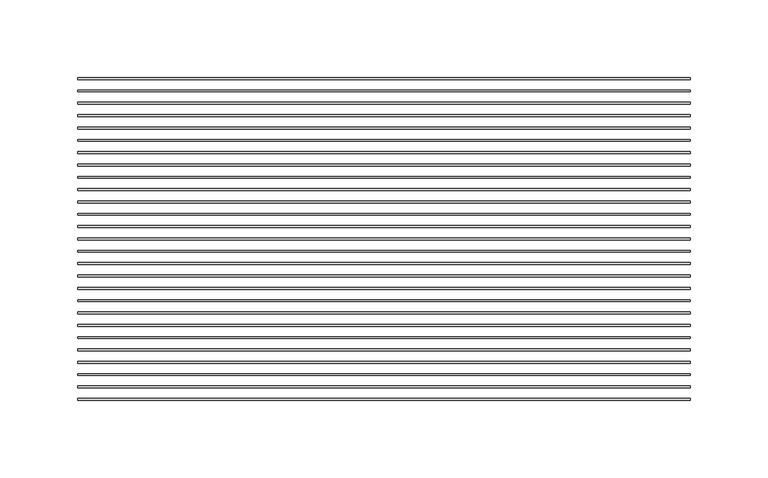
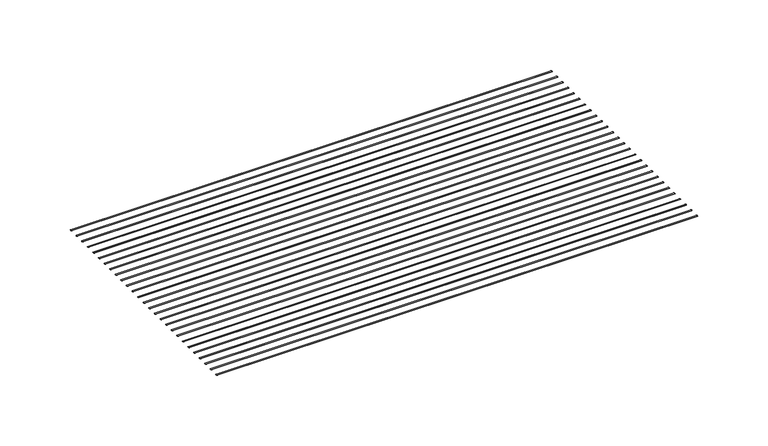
"""IFC4 building model written with IfcOpenShell, lengths in millimetres: proxy geometry, CRAi Generic Model Mesh Piece Face Based : CRAi Generic Model Mesh Piece Face Based."""

from ifc_helpers import new_model, si_unit, point, frame, origin, place, context, project, spatial, ellipse_curve, trimmed, source, transform, mapped, element, save
from ifc_brep_helpers import plane_surface, extruded_surface, advanced_brep


def generic_models_008a3d59(model_context):
    return source(origin(), model_context, "Body", "AdvancedBrep", [
        advanced_brep(
        [(-196.85, -134.6265202, -2.9765625), (-196.85, -133.4358952, -2.9765625), (196.85, -134.6265202, -2.9765625), (196.85, -133.4358952, -2.9765625)],
        [
            (0, 1, ellipse_curve(frame((-196.85, -134.0312077, -2.9765625), z_axis=(-1.0, 0.0, 0.0), x_axis=(0.0, 1.0, 0.0)), 0.5953125, 0.1984375)),
            (1, 0, ellipse_curve(frame((-196.85, -134.0312077, -2.9765625), z_axis=(-1.0, 0.0, 0.0), x_axis=(0.0, 1.0, 0.0)), 0.5953125, 0.1984375)),
            (2, 3, ellipse_curve(frame((196.85, -134.0312077, -2.9765625), z_axis=(1.0, 0.0, 0.0), x_axis=(0.0, 1.0, 0.0)), 0.5953125, 0.1984375)),
            (3, 2, ellipse_curve(frame((196.85, -134.0312077, -2.9765625), z_axis=(1.0, 0.0, 0.0), x_axis=(0.0, 1.0, 0.0)), 0.5953125, 0.1984375)),
            (1, 3),
            (2, 0),
        ],
        [
            plane_surface(frame((-196.85, -134.0312077, -2.9765625), z_axis=(-1.0, 0.0, 0.0), x_axis=(0.0, 0.0, 1.0))),
            plane_surface(frame((196.85, -134.0312077, -2.9765625), z_axis=(1.0, 0.0, 0.0), x_axis=(0.0, 0.0, 1.0))),
            extruded_surface(trimmed(ellipse_curve(frame((-196.85, -134.0312077, -2.9765625), z_axis=(1.0, 0.0, 0.0), x_axis=(0.0, 1.0, 0.0)), 0.5953125, 0.1984375), [point((-196.85, -134.6265202, -2.9765625))], [point((-196.85, -133.4358952, -2.9765625))], True, "CARTESIAN"), (393.7, 0.0, 0.0), 393.7),
            extruded_surface(trimmed(ellipse_curve(frame((-196.85, -134.0312077, -2.9765625), z_axis=(1.0, 0.0, 0.0), x_axis=(0.0, 1.0, 0.0)), 0.5953125, 0.1984375), [point((-196.85, -133.4358952, -2.9765625))], [point((-196.85, -134.6265202, -2.9765625))], True, "CARTESIAN"), (393.7, 0.0, 0.0), 393.7),
        ],
        [
            (0, [[1, 2]]),
            (1, [[3, 4]]),
            (2, [[5, -3, 6, -2]]),
            (3, [[-6, -4, -5, -1]]),
        ],
    ),
        advanced_brep(
        [(-196.85, -126.6890202, -2.9765625), (-196.85, -125.4983952, -2.9765625), (196.85, -126.6890202, -2.9765625), (196.85, -125.4983952, -2.9765625)],
        [
            (0, 1, ellipse_curve(frame((-196.85, -126.0937077, -2.9765625), z_axis=(-1.0, 0.0, 0.0), x_axis=(0.0, 1.0, 0.0)), 0.5953125, 0.1984375)),
            (1, 0, ellipse_curve(frame((-196.85, -126.0937077, -2.9765625), z_axis=(-1.0, 0.0, 0.0), x_axis=(0.0, 1.0, 0.0)), 0.5953125, 0.1984375)),
            (2, 3, ellipse_curve(frame((196.85, -126.0937077, -2.9765625), z_axis=(1.0, 0.0, 0.0), x_axis=(0.0, 1.0, 0.0)), 0.5953125, 0.1984375)),
            (3, 2, ellipse_curve(frame((196.85, -126.0937077, -2.9765625), z_axis=(1.0, 0.0, 0.0), x_axis=(0.0, 1.0, 0.0)), 0.5953125, 0.1984375)),
            (1, 3),
            (2, 0),
        ],
        [
            plane_surface(frame((-196.85, -126.0937077, -2.9765625), z_axis=(-1.0, 0.0, 0.0), x_axis=(0.0, 0.0, 1.0))),
            plane_surface(frame((196.85, -126.0937077, -2.9765625), z_axis=(1.0, 0.0, 0.0), x_axis=(0.0, 0.0, 1.0))),
            extruded_surface(trimmed(ellipse_curve(frame((-196.85, -126.0937077, -2.9765625), z_axis=(1.0, 0.0, 0.0), x_axis=(0.0, 1.0, 0.0)), 0.5953125, 0.1984375), [point((-196.85, -126.6890202, -2.9765625))], [point((-196.85, -125.4983952, -2.9765625))], True, "CARTESIAN"), (393.7, 0.0, 0.0), 393.7),
            extruded_surface(trimmed(ellipse_curve(frame((-196.85, -126.0937077, -2.9765625), z_axis=(1.0, 0.0, 0.0), x_axis=(0.0, 1.0, 0.0)), 0.5953125, 0.1984375), [point((-196.85, -125.4983952, -2.9765625))], [point((-196.85, -126.6890202, -2.9765625))], True, "CARTESIAN"), (393.7, 0.0, 0.0), 393.7),
        ],
        [
            (0, [[1, 2]]),
            (1, [[3, 4]]),
            (2, [[5, -3, 6, -2]]),
            (3, [[-6, -4, -5, -1]]),
        ],
    ),
        advanced_brep(
        [(-196.85, -118.7515202, -2.9765625), (-196.85, -117.5608952, -2.9765625), (196.85, -118.7515202, -2.9765625), (196.85, -117.5608952, -2.9765625)],
        [
            (0, 1, ellipse_curve(frame((-196.85, -118.1562077, -2.9765625), z_axis=(-1.0, 0.0, 0.0), x_axis=(0.0, 1.0, 0.0)), 0.5953125, 0.1984375)),
            (1, 0, ellipse_curve(frame((-196.85, -118.1562077, -2.9765625), z_axis=(-1.0, 0.0, 0.0), x_axis=(0.0, 1.0, 0.0)), 0.5953125, 0.1984375)),
            (2, 3, ellipse_curve(frame((196.85, -118.1562077, -2.9765625), z_axis=(1.0, 0.0, 0.0), x_axis=(0.0, 1.0, 0.0)), 0.5953125, 0.1984375)),
            (3, 2, ellipse_curve(frame((196.85, -118.1562077, -2.9765625), z_axis=(1.0, 0.0, 0.0), x_axis=(0.0, 1.0, 0.0)), 0.5953125, 0.1984375)),
            (1, 3),
            (2, 0),
        ],
        [
            plane_surface(frame((-196.85, -118.1562077, -2.9765625), z_axis=(-1.0, 0.0, 0.0), x_axis=(0.0, 0.0, 1.0))),
            plane_surface(frame((196.85, -118.1562077, -2.9765625), z_axis=(1.0, 0.0, 0.0), x_axis=(0.0, 0.0, 1.0))),
            extruded_surface(trimmed(ellipse_curve(frame((-196.85, -118.1562077, -2.9765625), z_axis=(1.0, 0.0, 0.0), x_axis=(0.0, 1.0, 0.0)), 0.5953125, 0.1984375), [point((-196.85, -118.7515202, -2.9765625))], [point((-196.85, -117.5608952, -2.9765625))], True, "CARTESIAN"), (393.7, 0.0, 0.0), 393.7),
            extruded_surface(trimmed(ellipse_curve(frame((-196.85, -118.1562077, -2.9765625), z_axis=(1.0, 0.0, 0.0), x_axis=(0.0, 1.0, 0.0)), 0.5953125, 0.1984375), [point((-196.85, -117.5608952, -2.9765625))], [point((-196.85, -118.7515202, -2.9765625))], True, "CARTESIAN"), (393.7, 0.0, 0.0), 393.7),
        ],
        [
            (0, [[1, 2]]),
            (1, [[3, 4]]),
            (2, [[5, -3, 6, -2]]),
            (3, [[-6, -4, -5, -1]]),
        ],
    ),
        advanced_brep(
        [(-196.85, -110.8140202, -2.9765625), (-196.85, -109.6233952, -2.9765625), (196.85, -110.8140202, -2.9765625), (196.85, -109.6233952, -2.9765625)],
        [
            (0, 1, ellipse_curve(frame((-196.85, -110.2187077, -2.9765625), z_axis=(-1.0, 0.0, 0.0), x_axis=(0.0, 1.0, 0.0)), 0.5953125, 0.1984375)),
            (1, 0, ellipse_curve(frame((-196.85, -110.2187077, -2.9765625), z_axis=(-1.0, 0.0, 0.0), x_axis=(0.0, 1.0, 0.0)), 0.5953125, 0.1984375)),
            (2, 3, ellipse_curve(frame((196.85, -110.2187077, -2.9765625), z_axis=(1.0, 0.0, 0.0), x_axis=(0.0, 1.0, 0.0)), 0.5953125, 0.1984375)),
            (3, 2, ellipse_curve(frame((196.85, -110.2187077, -2.9765625), z_axis=(1.0, 0.0, 0.0), x_axis=(0.0, 1.0, 0.0)), 0.5953125, 0.1984375)),
            (1, 3),
            (2, 0),
        ],
        [
            plane_surface(frame((-196.85, -110.2187077, -2.9765625), z_axis=(-1.0, 0.0, 0.0), x_axis=(0.0, 0.0, 1.0))),
            plane_surface(frame((196.85, -110.2187077, -2.9765625), z_axis=(1.0, 0.0, 0.0), x_axis=(0.0, 0.0, 1.0))),
            extruded_surface(trimmed(ellipse_curve(frame((-196.85, -110.2187077, -2.9765625), z_axis=(1.0, 0.0, 0.0), x_axis=(0.0, 1.0, 0.0)), 0.5953125, 0.1984375), [point((-196.85, -110.8140202, -2.9765625))], [point((-196.85, -109.6233952, -2.9765625))], True, "CARTESIAN"), (393.7, 0.0, 0.0), 393.7),
            extruded_surface(trimmed(ellipse_curve(frame((-196.85, -110.2187077, -2.9765625), z_axis=(1.0, 0.0, 0.0), x_axis=(0.0, 1.0, 0.0)), 0.5953125, 0.1984375), [point((-196.85, -109.6233952, -2.9765625))], [point((-196.85, -110.8140202, -2.9765625))], True, "CARTESIAN"), (393.7, 0.0, 0.0), 393.7),
        ],
        [
            (0, [[1, 2]]),
            (1, [[3, 4]]),
            (2, [[5, -3, 6, -2]]),
            (3, [[-6, -4, -5, -1]]),
        ],
    ),
        advanced_brep(
        [(-196.85, -102.8765202, -2.9765625), (-196.85, -101.6858952, -2.9765625), (196.85, -102.8765202, -2.9765625), (196.85, -101.6858952, -2.9765625)],
        [
            (0, 1, ellipse_curve(frame((-196.85, -102.2812077, -2.9765625), z_axis=(-1.0, 0.0, 0.0), x_axis=(0.0, 1.0, 0.0)), 0.5953125, 0.1984375)),
            (1, 0, ellipse_curve(frame((-196.85, -102.2812077, -2.9765625), z_axis=(-1.0, 0.0, 0.0), x_axis=(0.0, 1.0, 0.0)), 0.5953125, 0.1984375)),
            (2, 3, ellipse_curve(frame((196.85, -102.2812077, -2.9765625), z_axis=(1.0, 0.0, 0.0), x_axis=(0.0, 1.0, 0.0)), 0.5953125, 0.1984375)),
            (3, 2, ellipse_curve(frame((196.85, -102.2812077, -2.9765625), z_axis=(1.0, 0.0, 0.0), x_axis=(0.0, 1.0, 0.0)), 0.5953125, 0.1984375)),
            (1, 3),
            (2, 0),
        ],
        [
            plane_surface(frame((-196.85, -102.2812077, -2.9765625), z_axis=(-1.0, 0.0, 0.0), x_axis=(0.0, 0.0, 1.0))),
            plane_surface(frame((196.85, -102.2812077, -2.9765625), z_axis=(1.0, 0.0, 0.0), x_axis=(0.0, 0.0, 1.0))),
            extruded_surface(trimmed(ellipse_curve(frame((-196.85, -102.2812077, -2.9765625), z_axis=(1.0, 0.0, 0.0), x_axis=(0.0, 1.0, 0.0)), 0.5953125, 0.1984375), [point((-196.85, -102.8765202, -2.9765625))], [point((-196.85, -101.6858952, -2.9765625))], True, "CARTESIAN"), (393.7, 0.0, 0.0), 393.7),
            extruded_surface(trimmed(ellipse_curve(frame((-196.85, -102.2812077, -2.9765625), z_axis=(1.0, 0.0, 0.0), x_axis=(0.0, 1.0, 0.0)), 0.5953125, 0.1984375), [point((-196.85, -101.6858952, -2.9765625))], [point((-196.85, -102.8765202, -2.9765625))], True, "CARTESIAN"), (393.7, 0.0, 0.0), 393.7),
        ],
        [
            (0, [[1, 2]]),
            (1, [[3, 4]]),
            (2, [[5, -3, 6, -2]]),
            (3, [[-6, -4, -5, -1]]),
        ],
    ),
        advanced_brep(
        [(-196.85, -94.9390202, -2.9765625), (-196.85, -93.7483952, -2.9765625), (196.85, -94.9390202, -2.9765625), (196.85, -93.7483952, -2.9765625)],
        [
            (0, 1, ellipse_curve(frame((-196.85, -94.3437077, -2.9765625), z_axis=(-1.0, 0.0, 0.0), x_axis=(0.0, 1.0, 0.0)), 0.5953125, 0.1984375)),
            (1, 0, ellipse_curve(frame((-196.85, -94.3437077, -2.9765625), z_axis=(-1.0, 0.0, 0.0), x_axis=(0.0, 1.0, 0.0)), 0.5953125, 0.1984375)),
            (2, 3, ellipse_curve(frame((196.85, -94.3437077, -2.9765625), z_axis=(1.0, 0.0, 0.0), x_axis=(0.0, 1.0, 0.0)), 0.5953125, 0.1984375)),
            (3, 2, ellipse_curve(frame((196.85, -94.3437077, -2.9765625), z_axis=(1.0, 0.0, 0.0), x_axis=(0.0, 1.0, 0.0)), 0.5953125, 0.1984375)),
            (1, 3),
            (2, 0),
        ],
        [
            plane_surface(frame((-196.85, -94.3437077, -2.9765625), z_axis=(-1.0, 0.0, 0.0), x_axis=(0.0, 0.0, 1.0))),
            plane_surface(frame((196.85, -94.3437077, -2.9765625), z_axis=(1.0, 0.0, 0.0), x_axis=(0.0, 0.0, 1.0))),
            extruded_surface(trimmed(ellipse_curve(frame((-196.85, -94.3437077, -2.9765625), z_axis=(1.0, 0.0, 0.0), x_axis=(0.0, 1.0, 0.0)), 0.5953125, 0.1984375), [point((-196.85, -94.9390202, -2.9765625))], [point((-196.85, -93.7483952, -2.9765625))], True, "CARTESIAN"), (393.7, 0.0, 0.0), 393.7),
            extruded_surface(trimmed(ellipse_curve(frame((-196.85, -94.3437077, -2.9765625), z_axis=(1.0, 0.0, 0.0), x_axis=(0.0, 1.0, 0.0)), 0.5953125, 0.1984375), [point((-196.85, -93.7483952, -2.9765625))], [point((-196.85, -94.9390202, -2.9765625))], True, "CARTESIAN"), (393.7, 0.0, 0.0), 393.7),
        ],
        [
            (0, [[1, 2]]),
            (1, [[3, 4]]),
            (2, [[5, -3, 6, -2]]),
            (3, [[-6, -4, -5, -1]]),
        ],
    ),
        advanced_brep(
        [(-196.85, -87.0015202, -2.9765625), (-196.85, -85.8108952, -2.9765625), (196.85, -87.0015202, -2.9765625), (196.85, -85.8108952, -2.9765625)],
        [
            (0, 1, ellipse_curve(frame((-196.85, -86.4062077, -2.9765625), z_axis=(-1.0, 0.0, 0.0), x_axis=(0.0, 1.0, 0.0)), 0.5953125, 0.1984375)),
            (1, 0, ellipse_curve(frame((-196.85, -86.4062077, -2.9765625), z_axis=(-1.0, 0.0, 0.0), x_axis=(0.0, 1.0, 0.0)), 0.5953125, 0.1984375)),
            (2, 3, ellipse_curve(frame((196.85, -86.4062077, -2.9765625), z_axis=(1.0, 0.0, 0.0), x_axis=(0.0, 1.0, 0.0)), 0.5953125, 0.1984375)),
            (3, 2, ellipse_curve(frame((196.85, -86.4062077, -2.9765625), z_axis=(1.0, 0.0, 0.0), x_axis=(0.0, 1.0, 0.0)), 0.5953125, 0.1984375)),
            (1, 3),
            (2, 0),
        ],
        [
            plane_surface(frame((-196.85, -86.4062077, -2.9765625), z_axis=(-1.0, 0.0, 0.0), x_axis=(0.0, 0.0, 1.0))),
            plane_surface(frame((196.85, -86.4062077, -2.9765625), z_axis=(1.0, 0.0, 0.0), x_axis=(0.0, 0.0, 1.0))),
            extruded_surface(trimmed(ellipse_curve(frame((-196.85, -86.4062077, -2.9765625), z_axis=(1.0, 0.0, 0.0), x_axis=(0.0, 1.0, 0.0)), 0.5953125, 0.1984375), [point((-196.85, -87.0015202, -2.9765625))], [point((-196.85, -85.8108952, -2.9765625))], True, "CARTESIAN"), (393.7, 0.0, 0.0), 393.7),
            extruded_surface(trimmed(ellipse_curve(frame((-196.85, -86.4062077, -2.9765625), z_axis=(1.0, 0.0, 0.0), x_axis=(0.0, 1.0, 0.0)), 0.5953125, 0.1984375), [point((-196.85, -85.8108952, -2.9765625))], [point((-196.85, -87.0015202, -2.9765625))], True, "CARTESIAN"), (393.7, 0.0, 0.0), 393.7),
        ],
        [
            (0, [[1, 2]]),
            (1, [[3, 4]]),
            (2, [[5, -3, 6, -2]]),
            (3, [[-6, -4, -5, -1]]),
        ],
    ),
        advanced_brep(
        [(-196.85, -79.0640202, -2.9765625), (-196.85, -77.8733952, -2.9765625), (196.85, -79.0640202, -2.9765625), (196.85, -77.8733952, -2.9765625)],
        [
            (0, 1, ellipse_curve(frame((-196.85, -78.4687077, -2.9765625), z_axis=(-1.0, 0.0, 0.0), x_axis=(0.0, 1.0, 0.0)), 0.5953125, 0.1984375)),
            (1, 0, ellipse_curve(frame((-196.85, -78.4687077, -2.9765625), z_axis=(-1.0, 0.0, 0.0), x_axis=(0.0, 1.0, 0.0)), 0.5953125, 0.1984375)),
            (2, 3, ellipse_curve(frame((196.85, -78.4687077, -2.9765625), z_axis=(1.0, 0.0, 0.0), x_axis=(0.0, 1.0, 0.0)), 0.5953125, 0.1984375)),
            (3, 2, ellipse_curve(frame((196.85, -78.4687077, -2.9765625), z_axis=(1.0, 0.0, 0.0), x_axis=(0.0, 1.0, 0.0)), 0.5953125, 0.1984375)),
            (1, 3),
            (2, 0),
        ],
        [
            plane_surface(frame((-196.85, -78.4687077, -2.9765625), z_axis=(-1.0, 0.0, 0.0), x_axis=(0.0, 0.0, 1.0))),
            plane_surface(frame((196.85, -78.4687077, -2.9765625), z_axis=(1.0, 0.0, 0.0), x_axis=(0.0, 0.0, 1.0))),
            extruded_surface(trimmed(ellipse_curve(frame((-196.85, -78.4687077, -2.9765625), z_axis=(1.0, 0.0, 0.0), x_axis=(0.0, 1.0, 0.0)), 0.5953125, 0.1984375), [point((-196.85, -79.0640202, -2.9765625))], [point((-196.85, -77.8733952, -2.9765625))], True, "CARTESIAN"), (393.7, 0.0, 0.0), 393.7),
            extruded_surface(trimmed(ellipse_curve(frame((-196.85, -78.4687077, -2.9765625), z_axis=(1.0, 0.0, 0.0), x_axis=(0.0, 1.0, 0.0)), 0.5953125, 0.1984375), [point((-196.85, -77.8733952, -2.9765625))], [point((-196.85, -79.0640202, -2.9765625))], True, "CARTESIAN"), (393.7, 0.0, 0.0), 393.7),
        ],
        [
            (0, [[1, 2]]),
            (1, [[3, 4]]),
            (2, [[5, -3, 6, -2]]),
            (3, [[-6, -4, -5, -1]]),
        ],
    ),
        advanced_brep(
        [(-196.85, -71.1265202, -2.9765625), (-196.85, -69.9358952, -2.9765625), (196.85, -71.1265202, -2.9765625), (196.85, -69.9358952, -2.9765625)],
        [
            (0, 1, ellipse_curve(frame((-196.85, -70.5312077, -2.9765625), z_axis=(-1.0, 0.0, 0.0), x_axis=(0.0, 1.0, 0.0)), 0.5953125, 0.1984375)),
            (1, 0, ellipse_curve(frame((-196.85, -70.5312077, -2.9765625), z_axis=(-1.0, 0.0, 0.0), x_axis=(0.0, 1.0, 0.0)), 0.5953125, 0.1984375)),
            (2, 3, ellipse_curve(frame((196.85, -70.5312077, -2.9765625), z_axis=(1.0, 0.0, 0.0), x_axis=(0.0, 1.0, 0.0)), 0.5953125, 0.1984375)),
            (3, 2, ellipse_curve(frame((196.85, -70.5312077, -2.9765625), z_axis=(1.0, 0.0, 0.0), x_axis=(0.0, 1.0, 0.0)), 0.5953125, 0.1984375)),
            (1, 3),
            (2, 0),
        ],
        [
            plane_surface(frame((-196.85, -70.5312077, -2.9765625), z_axis=(-1.0, 0.0, 0.0), x_axis=(0.0, 0.0, 1.0))),
            plane_surface(frame((196.85, -70.5312077, -2.9765625), z_axis=(1.0, 0.0, 0.0), x_axis=(0.0, 0.0, 1.0))),
            extruded_surface(trimmed(ellipse_curve(frame((-196.85, -70.5312077, -2.9765625), z_axis=(1.0, 0.0, 0.0), x_axis=(0.0, 1.0, 0.0)), 0.5953125, 0.1984375), [point((-196.85, -71.1265202, -2.9765625))], [point((-196.85, -69.9358952, -2.9765625))], True, "CARTESIAN"), (393.7, 0.0, 0.0), 393.7),
            extruded_surface(trimmed(ellipse_curve(frame((-196.85, -70.5312077, -2.9765625), z_axis=(1.0, 0.0, 0.0), x_axis=(0.0, 1.0, 0.0)), 0.5953125, 0.1984375), [point((-196.85, -69.9358952, -2.9765625))], [point((-196.85, -71.1265202, -2.9765625))], True, "CARTESIAN"), (393.7, 0.0, 0.0), 393.7),
        ],
        [
            (0, [[1, 2]]),
            (1, [[3, 4]]),
            (2, [[5, -3, 6, -2]]),
            (3, [[-6, -4, -5, -1]]),
        ],
    ),
        advanced_brep(
        [(-196.85, -63.1890202, -2.9765625), (-196.85, -61.9983952, -2.9765625), (196.85, -63.1890202, -2.9765625), (196.85, -61.9983952, -2.9765625)],
        [
            (0, 1, ellipse_curve(frame((-196.85, -62.5937077, -2.9765625), z_axis=(-1.0, 0.0, 0.0), x_axis=(0.0, 1.0, 0.0)), 0.5953125, 0.1984375)),
            (1, 0, ellipse_curve(frame((-196.85, -62.5937077, -2.9765625), z_axis=(-1.0, 0.0, 0.0), x_axis=(0.0, 1.0, 0.0)), 0.5953125, 0.1984375)),
            (2, 3, ellipse_curve(frame((196.85, -62.5937077, -2.9765625), z_axis=(1.0, 0.0, 0.0), x_axis=(0.0, 1.0, 0.0)), 0.5953125, 0.1984375)),
            (3, 2, ellipse_curve(frame((196.85, -62.5937077, -2.9765625), z_axis=(1.0, 0.0, 0.0), x_axis=(0.0, 1.0, 0.0)), 0.5953125, 0.1984375)),
            (1, 3),
            (2, 0),
        ],
        [
            plane_surface(frame((-196.85, -62.5937077, -2.9765625), z_axis=(-1.0, 0.0, 0.0), x_axis=(0.0, 0.0, 1.0))),
            plane_surface(frame((196.85, -62.5937077, -2.9765625), z_axis=(1.0, 0.0, 0.0), x_axis=(0.0, 0.0, 1.0))),
            extruded_surface(trimmed(ellipse_curve(frame((-196.85, -62.5937077, -2.9765625), z_axis=(1.0, 0.0, 0.0), x_axis=(0.0, 1.0, 0.0)), 0.5953125, 0.1984375), [point((-196.85, -63.1890202, -2.9765625))], [point((-196.85, -61.9983952, -2.9765625))], True, "CARTESIAN"), (393.7, 0.0, 0.0), 393.7),
            extruded_surface(trimmed(ellipse_curve(frame((-196.85, -62.5937077, -2.9765625), z_axis=(1.0, 0.0, 0.0), x_axis=(0.0, 1.0, 0.0)), 0.5953125, 0.1984375), [point((-196.85, -61.9983952, -2.9765625))], [point((-196.85, -63.1890202, -2.9765625))], True, "CARTESIAN"), (393.7, 0.0, 0.0), 393.7),
        ],
        [
            (0, [[1, 2]]),
            (1, [[3, 4]]),
            (2, [[5, -3, 6, -2]]),
            (3, [[-6, -4, -5, -1]]),
        ],
    ),
        advanced_brep(
        [(-196.85, -55.2515202, -2.9765625), (-196.85, -54.0608952, -2.9765625), (196.85, -55.2515202, -2.9765625), (196.85, -54.0608952, -2.9765625)],
        [
            (0, 1, ellipse_curve(frame((-196.85, -54.6562077, -2.9765625), z_axis=(-1.0, 0.0, 0.0), x_axis=(0.0, 1.0, 0.0)), 0.5953125, 0.1984375)),
            (1, 0, ellipse_curve(frame((-196.85, -54.6562077, -2.9765625), z_axis=(-1.0, 0.0, 0.0), x_axis=(0.0, 1.0, 0.0)), 0.5953125, 0.1984375)),
            (2, 3, ellipse_curve(frame((196.85, -54.6562077, -2.9765625), z_axis=(1.0, 0.0, 0.0), x_axis=(0.0, 1.0, 0.0)), 0.5953125, 0.1984375)),
            (3, 2, ellipse_curve(frame((196.85, -54.6562077, -2.9765625), z_axis=(1.0, 0.0, 0.0), x_axis=(0.0, 1.0, 0.0)), 0.5953125, 0.1984375)),
            (1, 3),
            (2, 0),
        ],
        [
            plane_surface(frame((-196.85, -54.6562077, -2.9765625), z_axis=(-1.0, 0.0, 0.0), x_axis=(0.0, 0.0, 1.0))),
            plane_surface(frame((196.85, -54.6562077, -2.9765625), z_axis=(1.0, 0.0, 0.0), x_axis=(0.0, 0.0, 1.0))),
            extruded_surface(trimmed(ellipse_curve(frame((-196.85, -54.6562077, -2.9765625), z_axis=(1.0, 0.0, 0.0), x_axis=(0.0, 1.0, 0.0)), 0.5953125, 0.1984375), [point((-196.85, -55.2515202, -2.9765625))], [point((-196.85, -54.0608952, -2.9765625))], True, "CARTESIAN"), (393.7, 0.0, 0.0), 393.7),
            extruded_surface(trimmed(ellipse_curve(frame((-196.85, -54.6562077, -2.9765625), z_axis=(1.0, 0.0, 0.0), x_axis=(0.0, 1.0, 0.0)), 0.5953125, 0.1984375), [point((-196.85, -54.0608952, -2.9765625))], [point((-196.85, -55.2515202, -2.9765625))], True, "CARTESIAN"), (393.7, 0.0, 0.0), 393.7),
        ],
        [
            (0, [[1, 2]]),
            (1, [[3, 4]]),
            (2, [[5, -3, 6, -2]]),
            (3, [[-6, -4, -5, -1]]),
        ],
    ),
        advanced_brep(
        [(-196.85, -47.3140202, -2.9765625), (-196.85, -46.1233952, -2.9765625), (196.85, -47.3140202, -2.9765625), (196.85, -46.1233952, -2.9765625)],
        [
            (0, 1, ellipse_curve(frame((-196.85, -46.7187077, -2.9765625), z_axis=(-1.0, 0.0, 0.0), x_axis=(0.0, 1.0, 0.0)), 0.5953125, 0.1984375)),
            (1, 0, ellipse_curve(frame((-196.85, -46.7187077, -2.9765625), z_axis=(-1.0, 0.0, 0.0), x_axis=(0.0, 1.0, 0.0)), 0.5953125, 0.1984375)),
            (2, 3, ellipse_curve(frame((196.85, -46.7187077, -2.9765625), z_axis=(1.0, 0.0, 0.0), x_axis=(0.0, 1.0, 0.0)), 0.5953125, 0.1984375)),
            (3, 2, ellipse_curve(frame((196.85, -46.7187077, -2.9765625), z_axis=(1.0, 0.0, 0.0), x_axis=(0.0, 1.0, 0.0)), 0.5953125, 0.1984375)),
            (1, 3),
            (2, 0),
        ],
        [
            plane_surface(frame((-196.85, -46.7187077, -2.9765625), z_axis=(-1.0, 0.0, 0.0), x_axis=(0.0, 0.0, 1.0))),
            plane_surface(frame((196.85, -46.7187077, -2.9765625), z_axis=(1.0, 0.0, 0.0), x_axis=(0.0, 0.0, 1.0))),
            extruded_surface(trimmed(ellipse_curve(frame((-196.85, -46.7187077, -2.9765625), z_axis=(1.0, 0.0, 0.0), x_axis=(0.0, 1.0, 0.0)), 0.5953125, 0.1984375), [point((-196.85, -47.3140202, -2.9765625))], [point((-196.85, -46.1233952, -2.9765625))], True, "CARTESIAN"), (393.7, 0.0, 0.0), 393.7),
            extruded_surface(trimmed(ellipse_curve(frame((-196.85, -46.7187077, -2.9765625), z_axis=(1.0, 0.0, 0.0), x_axis=(0.0, 1.0, 0.0)), 0.5953125, 0.1984375), [point((-196.85, -46.1233952, -2.9765625))], [point((-196.85, -47.3140202, -2.9765625))], True, "CARTESIAN"), (393.7, 0.0, 0.0), 393.7),
        ],
        [
            (0, [[1, 2]]),
            (1, [[3, 4]]),
            (2, [[5, -3, 6, -2]]),
            (3, [[-6, -4, -5, -1]]),
        ],
    ),
        advanced_brep(
        [(-196.85, -39.3765202, -2.9765625), (-196.85, -38.1858952, -2.9765625), (196.85, -39.3765202, -2.9765625), (196.85, -38.1858952, -2.9765625)],
        [
            (0, 1, ellipse_curve(frame((-196.85, -38.7812077, -2.9765625), z_axis=(-1.0, 0.0, 0.0), x_axis=(0.0, 1.0, 0.0)), 0.5953125, 0.1984375)),
            (1, 0, ellipse_curve(frame((-196.85, -38.7812077, -2.9765625), z_axis=(-1.0, 0.0, 0.0), x_axis=(0.0, 1.0, 0.0)), 0.5953125, 0.1984375)),
            (2, 3, ellipse_curve(frame((196.85, -38.7812077, -2.9765625), z_axis=(1.0, 0.0, 0.0), x_axis=(0.0, 1.0, 0.0)), 0.5953125, 0.1984375)),
            (3, 2, ellipse_curve(frame((196.85, -38.7812077, -2.9765625), z_axis=(1.0, 0.0, 0.0), x_axis=(0.0, 1.0, 0.0)), 0.5953125, 0.1984375)),
            (1, 3),
            (2, 0),
        ],
        [
            plane_surface(frame((-196.85, -38.7812077, -2.9765625), z_axis=(-1.0, 0.0, 0.0), x_axis=(0.0, 0.0, 1.0))),
            plane_surface(frame((196.85, -38.7812077, -2.9765625), z_axis=(1.0, 0.0, 0.0), x_axis=(0.0, 0.0, 1.0))),
            extruded_surface(trimmed(ellipse_curve(frame((-196.85, -38.7812077, -2.9765625), z_axis=(1.0, 0.0, 0.0), x_axis=(0.0, 1.0, 0.0)), 0.5953125, 0.1984375), [point((-196.85, -39.3765202, -2.9765625))], [point((-196.85, -38.1858952, -2.9765625))], True, "CARTESIAN"), (393.7, 0.0, 0.0), 393.7),
            extruded_surface(trimmed(ellipse_curve(frame((-196.85, -38.7812077, -2.9765625), z_axis=(1.0, 0.0, 0.0), x_axis=(0.0, 1.0, 0.0)), 0.5953125, 0.1984375), [point((-196.85, -38.1858952, -2.9765625))], [point((-196.85, -39.3765202, -2.9765625))], True, "CARTESIAN"), (393.7, 0.0, 0.0), 393.7),
        ],
        [
            (0, [[1, 2]]),
            (1, [[3, 4]]),
            (2, [[5, -3, 6, -2]]),
            (3, [[-6, -4, -5, -1]]),
        ],
    ),
        advanced_brep(
        [(-196.85, -31.4390202, -2.9765625), (-196.85, -30.2483952, -2.9765625), (196.85, -31.4390202, -2.9765625), (196.85, -30.2483952, -2.9765625)],
        [
            (0, 1, ellipse_curve(frame((-196.85, -30.8437077, -2.9765625), z_axis=(-1.0, 0.0, 0.0), x_axis=(0.0, 1.0, 0.0)), 0.5953125, 0.1984375)),
            (1, 0, ellipse_curve(frame((-196.85, -30.8437077, -2.9765625), z_axis=(-1.0, 0.0, 0.0), x_axis=(0.0, 1.0, 0.0)), 0.5953125, 0.1984375)),
            (2, 3, ellipse_curve(frame((196.85, -30.8437077, -2.9765625), z_axis=(1.0, 0.0, 0.0), x_axis=(0.0, 1.0, 0.0)), 0.5953125, 0.1984375)),
            (3, 2, ellipse_curve(frame((196.85, -30.8437077, -2.9765625), z_axis=(1.0, 0.0, 0.0), x_axis=(0.0, 1.0, 0.0)), 0.5953125, 0.1984375)),
            (1, 3),
            (2, 0),
        ],
        [
            plane_surface(frame((-196.85, -30.8437077, -2.9765625), z_axis=(-1.0, 0.0, 0.0), x_axis=(0.0, 0.0, 1.0))),
            plane_surface(frame((196.85, -30.8437077, -2.9765625), z_axis=(1.0, 0.0, 0.0), x_axis=(0.0, 0.0, 1.0))),
            extruded_surface(trimmed(ellipse_curve(frame((-196.85, -30.8437077, -2.9765625), z_axis=(1.0, 0.0, 0.0), x_axis=(0.0, 1.0, 0.0)), 0.5953125, 0.1984375), [point((-196.85, -31.4390202, -2.9765625))], [point((-196.85, -30.2483952, -2.9765625))], True, "CARTESIAN"), (393.7, 0.0, 0.0), 393.7),
            extruded_surface(trimmed(ellipse_curve(frame((-196.85, -30.8437077, -2.9765625), z_axis=(1.0, 0.0, 0.0), x_axis=(0.0, 1.0, 0.0)), 0.5953125, 0.1984375), [point((-196.85, -30.2483952, -2.9765625))], [point((-196.85, -31.4390202, -2.9765625))], True, "CARTESIAN"), (393.7, 0.0, 0.0), 393.7),
        ],
        [
            (0, [[1, 2]]),
            (1, [[3, 4]]),
            (2, [[5, -3, 6, -2]]),
            (3, [[-6, -4, -5, -1]]),
        ],
    ),
        advanced_brep(
        [(-196.85, -23.5015202, -2.9765625), (-196.85, -22.3108952, -2.9765625), (196.85, -23.5015202, -2.9765625), (196.85, -22.3108952, -2.9765625)],
        [
            (0, 1, ellipse_curve(frame((-196.85, -22.9062077, -2.9765625), z_axis=(-1.0, 0.0, 0.0), x_axis=(0.0, 1.0, 0.0)), 0.5953125, 0.1984375)),
            (1, 0, ellipse_curve(frame((-196.85, -22.9062077, -2.9765625), z_axis=(-1.0, 0.0, 0.0), x_axis=(0.0, 1.0, 0.0)), 0.5953125, 0.1984375)),
            (2, 3, ellipse_curve(frame((196.85, -22.9062077, -2.9765625), z_axis=(1.0, 0.0, 0.0), x_axis=(0.0, 1.0, 0.0)), 0.5953125, 0.1984375)),
            (3, 2, ellipse_curve(frame((196.85, -22.9062077, -2.9765625), z_axis=(1.0, 0.0, 0.0), x_axis=(0.0, 1.0, 0.0)), 0.5953125, 0.1984375)),
            (1, 3),
            (2, 0),
        ],
        [
            plane_surface(frame((-196.85, -22.9062077, -2.9765625), z_axis=(-1.0, 0.0, 0.0), x_axis=(0.0, 0.0, 1.0))),
            plane_surface(frame((196.85, -22.9062077, -2.9765625), z_axis=(1.0, 0.0, 0.0), x_axis=(0.0, 0.0, 1.0))),
            extruded_surface(trimmed(ellipse_curve(frame((-196.85, -22.9062077, -2.9765625), z_axis=(1.0, 0.0, 0.0), x_axis=(0.0, 1.0, 0.0)), 0.5953125, 0.1984375), [point((-196.85, -23.5015202, -2.9765625))], [point((-196.85, -22.3108952, -2.9765625))], True, "CARTESIAN"), (393.7, 0.0, 0.0), 393.7),
            extruded_surface(trimmed(ellipse_curve(frame((-196.85, -22.9062077, -2.9765625), z_axis=(1.0, 0.0, 0.0), x_axis=(0.0, 1.0, 0.0)), 0.5953125, 0.1984375), [point((-196.85, -22.3108952, -2.9765625))], [point((-196.85, -23.5015202, -2.9765625))], True, "CARTESIAN"), (393.7, 0.0, 0.0), 393.7),
        ],
        [
            (0, [[1, 2]]),
            (1, [[3, 4]]),
            (2, [[5, -3, 6, -2]]),
            (3, [[-6, -4, -5, -1]]),
        ],
    ),
        advanced_brep(
        [(-196.85, -15.5640202, -2.9765625), (-196.85, -14.3733952, -2.9765625), (196.85, -15.5640202, -2.9765625), (196.85, -14.3733952, -2.9765625)],
        [
            (0, 1, ellipse_curve(frame((-196.85, -14.9687077, -2.9765625), z_axis=(-1.0, 0.0, 0.0), x_axis=(0.0, 1.0, 0.0)), 0.5953125, 0.1984375)),
            (1, 0, ellipse_curve(frame((-196.85, -14.9687077, -2.9765625), z_axis=(-1.0, 0.0, 0.0), x_axis=(0.0, 1.0, 0.0)), 0.5953125, 0.1984375)),
            (2, 3, ellipse_curve(frame((196.85, -14.9687077, -2.9765625), z_axis=(1.0, 0.0, 0.0), x_axis=(0.0, 1.0, 0.0)), 0.5953125, 0.1984375)),
            (3, 2, ellipse_curve(frame((196.85, -14.9687077, -2.9765625), z_axis=(1.0, 0.0, 0.0), x_axis=(0.0, 1.0, 0.0)), 0.5953125, 0.1984375)),
            (1, 3),
            (2, 0),
        ],
        [
            plane_surface(frame((-196.85, -14.9687077, -2.9765625), z_axis=(-1.0, 0.0, 0.0), x_axis=(0.0, 0.0, 1.0))),
            plane_surface(frame((196.85, -14.9687077, -2.9765625), z_axis=(1.0, 0.0, 0.0), x_axis=(0.0, 0.0, 1.0))),
            extruded_surface(trimmed(ellipse_curve(frame((-196.85, -14.9687077, -2.9765625), z_axis=(1.0, 0.0, 0.0), x_axis=(0.0, 1.0, 0.0)), 0.5953125, 0.1984375), [point((-196.85, -15.5640202, -2.9765625))], [point((-196.85, -14.3733952, -2.9765625))], True, "CARTESIAN"), (393.7, 0.0, 0.0), 393.7),
            extruded_surface(trimmed(ellipse_curve(frame((-196.85, -14.9687077, -2.9765625), z_axis=(1.0, 0.0, 0.0), x_axis=(0.0, 1.0, 0.0)), 0.5953125, 0.1984375), [point((-196.85, -14.3733952, -2.9765625))], [point((-196.85, -15.5640202, -2.9765625))], True, "CARTESIAN"), (393.7, 0.0, 0.0), 393.7),
        ],
        [
            (0, [[1, 2]]),
            (1, [[3, 4]]),
            (2, [[5, -3, 6, -2]]),
            (3, [[-6, -4, -5, -1]]),
        ],
    ),
        advanced_brep(
        [(-196.85, -7.6265202, -2.9765625), (-196.85, -6.4358952, -2.9765625), (196.85, -7.6265202, -2.9765625), (196.85, -6.4358952, -2.9765625)],
        [
            (0, 1, ellipse_curve(frame((-196.85, -7.0312077, -2.9765625), z_axis=(-1.0, 0.0, 0.0), x_axis=(0.0, 1.0, 0.0)), 0.5953125, 0.1984375)),
            (1, 0, ellipse_curve(frame((-196.85, -7.0312077, -2.9765625), z_axis=(-1.0, 0.0, 0.0), x_axis=(0.0, 1.0, 0.0)), 0.5953125, 0.1984375)),
            (2, 3, ellipse_curve(frame((196.85, -7.0312077, -2.9765625), z_axis=(1.0, 0.0, 0.0), x_axis=(0.0, 1.0, 0.0)), 0.5953125, 0.1984375)),
            (3, 2, ellipse_curve(frame((196.85, -7.0312077, -2.9765625), z_axis=(1.0, 0.0, 0.0), x_axis=(0.0, 1.0, 0.0)), 0.5953125, 0.1984375)),
            (1, 3),
            (2, 0),
        ],
        [
            plane_surface(frame((-196.85, -7.0312077, -2.9765625), z_axis=(-1.0, 0.0, 0.0), x_axis=(0.0, 0.0, 1.0))),
            plane_surface(frame((196.85, -7.0312077, -2.9765625), z_axis=(1.0, 0.0, 0.0), x_axis=(0.0, 0.0, 1.0))),
            extruded_surface(trimmed(ellipse_curve(frame((-196.85, -7.0312077, -2.9765625), z_axis=(1.0, 0.0, 0.0), x_axis=(0.0, 1.0, 0.0)), 0.5953125, 0.1984375), [point((-196.85, -7.6265202, -2.9765625))], [point((-196.85, -6.4358952, -2.9765625))], True, "CARTESIAN"), (393.7, 0.0, 0.0), 393.7),
            extruded_surface(trimmed(ellipse_curve(frame((-196.85, -7.0312077, -2.9765625), z_axis=(1.0, 0.0, 0.0), x_axis=(0.0, 1.0, 0.0)), 0.5953125, 0.1984375), [point((-196.85, -6.4358952, -2.9765625))], [point((-196.85, -7.6265202, -2.9765625))], True, "CARTESIAN"), (393.7, 0.0, 0.0), 393.7),
        ],
        [
            (0, [[1, 2]]),
            (1, [[3, 4]]),
            (2, [[5, -3, 6, -2]]),
            (3, [[-6, -4, -5, -1]]),
        ],
    ),
        advanced_brep(
        [(-196.85, 0.3109798, -2.9765625), (-196.85, 1.5016048, -2.9765625), (196.85, 0.3109798, -2.9765625), (196.85, 1.5016048, -2.9765625)],
        [
            (0, 1, ellipse_curve(frame((-196.85, 0.9062923, -2.9765625), z_axis=(-1.0, 0.0, 0.0), x_axis=(0.0, 1.0, 0.0)), 0.5953125, 0.1984375)),
            (1, 0, ellipse_curve(frame((-196.85, 0.9062923, -2.9765625), z_axis=(-1.0, 0.0, 0.0), x_axis=(0.0, 1.0, 0.0)), 0.5953125, 0.1984375)),
            (2, 3, ellipse_curve(frame((196.85, 0.9062923, -2.9765625), z_axis=(1.0, 0.0, 0.0), x_axis=(0.0, 1.0, 0.0)), 0.5953125, 0.1984375)),
            (3, 2, ellipse_curve(frame((196.85, 0.9062923, -2.9765625), z_axis=(1.0, 0.0, 0.0), x_axis=(0.0, 1.0, 0.0)), 0.5953125, 0.1984375)),
            (1, 3),
            (2, 0),
        ],
        [
            plane_surface(frame((-196.85, 0.9062923, -2.9765625), z_axis=(-1.0, 0.0, 0.0), x_axis=(0.0, 0.0, 1.0))),
            plane_surface(frame((196.85, 0.9062923, -2.9765625), z_axis=(1.0, 0.0, 0.0), x_axis=(0.0, 0.0, 1.0))),
            extruded_surface(trimmed(ellipse_curve(frame((-196.85, 0.9062923, -2.9765625), z_axis=(1.0, 0.0, 0.0), x_axis=(0.0, 1.0, 0.0)), 0.5953125, 0.1984375), [point((-196.85, 0.3109798, -2.9765625))], [point((-196.85, 1.5016048, -2.9765625))], True, "CARTESIAN"), (393.7, 0.0, 0.0), 393.7),
            extruded_surface(trimmed(ellipse_curve(frame((-196.85, 0.9062923, -2.9765625), z_axis=(1.0, 0.0, 0.0), x_axis=(0.0, 1.0, 0.0)), 0.5953125, 0.1984375), [point((-196.85, 1.5016048, -2.9765625))], [point((-196.85, 0.3109798, -2.9765625))], True, "CARTESIAN"), (393.7, 0.0, 0.0), 393.7),
        ],
        [
            (0, [[1, 2]]),
            (1, [[3, 4]]),
            (2, [[5, -3, 6, -2]]),
            (3, [[-6, -4, -5, -1]]),
        ],
    ),
        advanced_brep(
        [(-196.85, 8.2484798, -2.9765625), (-196.85, 9.4391048, -2.9765625), (196.85, 8.2484798, -2.9765625), (196.85, 9.4391048, -2.9765625)],
        [
            (0, 1, ellipse_curve(frame((-196.85, 8.8437923, -2.9765625), z_axis=(-1.0, 0.0, 0.0), x_axis=(0.0, 1.0, 0.0)), 0.5953125, 0.1984375)),
            (1, 0, ellipse_curve(frame((-196.85, 8.8437923, -2.9765625), z_axis=(-1.0, 0.0, 0.0), x_axis=(0.0, 1.0, 0.0)), 0.5953125, 0.1984375)),
            (2, 3, ellipse_curve(frame((196.85, 8.8437923, -2.9765625), z_axis=(1.0, 0.0, 0.0), x_axis=(0.0, 1.0, 0.0)), 0.5953125, 0.1984375)),
            (3, 2, ellipse_curve(frame((196.85, 8.8437923, -2.9765625), z_axis=(1.0, 0.0, 0.0), x_axis=(0.0, 1.0, 0.0)), 0.5953125, 0.1984375)),
            (1, 3),
            (2, 0),
        ],
        [
            plane_surface(frame((-196.85, 8.8437923, -2.9765625), z_axis=(-1.0, 0.0, 0.0), x_axis=(0.0, 0.0, 1.0))),
            plane_surface(frame((196.85, 8.8437923, -2.9765625), z_axis=(1.0, 0.0, 0.0), x_axis=(0.0, 0.0, 1.0))),
            extruded_surface(trimmed(ellipse_curve(frame((-196.85, 8.8437923, -2.9765625), z_axis=(1.0, 0.0, 0.0), x_axis=(0.0, 1.0, 0.0)), 0.5953125, 0.1984375), [point((-196.85, 8.2484798, -2.9765625))], [point((-196.85, 9.4391048, -2.9765625))], True, "CARTESIAN"), (393.7, 0.0, 0.0), 393.7),
            extruded_surface(trimmed(ellipse_curve(frame((-196.85, 8.8437923, -2.9765625), z_axis=(1.0, 0.0, 0.0), x_axis=(0.0, 1.0, 0.0)), 0.5953125, 0.1984375), [point((-196.85, 9.4391048, -2.9765625))], [point((-196.85, 8.2484798, -2.9765625))], True, "CARTESIAN"), (393.7, 0.0, 0.0), 393.7),
        ],
        [
            (0, [[1, 2]]),
            (1, [[3, 4]]),
            (2, [[5, -3, 6, -2]]),
            (3, [[-6, -4, -5, -1]]),
        ],
    ),
        advanced_brep(
        [(-196.85, 16.1859798, -2.9765625), (-196.85, 17.3766048, -2.9765625), (196.85, 16.1859798, -2.9765625), (196.85, 17.3766048, -2.9765625)],
        [
            (0, 1, ellipse_curve(frame((-196.85, 16.7812923, -2.9765625), z_axis=(-1.0, 0.0, 0.0), x_axis=(0.0, 1.0, 0.0)), 0.5953125, 0.1984375)),
            (1, 0, ellipse_curve(frame((-196.85, 16.7812923, -2.9765625), z_axis=(-1.0, 0.0, 0.0), x_axis=(0.0, 1.0, 0.0)), 0.5953125, 0.1984375)),
            (2, 3, ellipse_curve(frame((196.85, 16.7812923, -2.9765625), z_axis=(1.0, 0.0, 0.0), x_axis=(0.0, 1.0, 0.0)), 0.5953125, 0.1984375)),
            (3, 2, ellipse_curve(frame((196.85, 16.7812923, -2.9765625), z_axis=(1.0, 0.0, 0.0), x_axis=(0.0, 1.0, 0.0)), 0.5953125, 0.1984375)),
            (1, 3),
            (2, 0),
        ],
        [
            plane_surface(frame((-196.85, 16.7812923, -2.9765625), z_axis=(-1.0, 0.0, 0.0), x_axis=(0.0, 0.0, 1.0))),
            plane_surface(frame((196.85, 16.7812923, -2.9765625), z_axis=(1.0, 0.0, 0.0), x_axis=(0.0, 0.0, 1.0))),
            extruded_surface(trimmed(ellipse_curve(frame((-196.85, 16.7812923, -2.9765625), z_axis=(1.0, 0.0, 0.0), x_axis=(0.0, 1.0, 0.0)), 0.5953125, 0.1984375), [point((-196.85, 16.1859798, -2.9765625))], [point((-196.85, 17.3766048, -2.9765625))], True, "CARTESIAN"), (393.7, 0.0, 0.0), 393.7),
            extruded_surface(trimmed(ellipse_curve(frame((-196.85, 16.7812923, -2.9765625), z_axis=(1.0, 0.0, 0.0), x_axis=(0.0, 1.0, 0.0)), 0.5953125, 0.1984375), [point((-196.85, 17.3766048, -2.9765625))], [point((-196.85, 16.1859798, -2.9765625))], True, "CARTESIAN"), (393.7, 0.0, 0.0), 393.7),
        ],
        [
            (0, [[1, 2]]),
            (1, [[3, 4]]),
            (2, [[5, -3, 6, -2]]),
            (3, [[-6, -4, -5, -1]]),
        ],
    ),
        advanced_brep(
        [(-196.85, 24.1234798, -2.9765625), (-196.85, 25.3141048, -2.9765625), (196.85, 24.1234798, -2.9765625), (196.85, 25.3141048, -2.9765625)],
        [
            (0, 1, ellipse_curve(frame((-196.85, 24.7187923, -2.9765625), z_axis=(-1.0, 0.0, 0.0), x_axis=(0.0, 1.0, 0.0)), 0.5953125, 0.1984375)),
            (1, 0, ellipse_curve(frame((-196.85, 24.7187923, -2.9765625), z_axis=(-1.0, 0.0, 0.0), x_axis=(0.0, 1.0, 0.0)), 0.5953125, 0.1984375)),
            (2, 3, ellipse_curve(frame((196.85, 24.7187923, -2.9765625), z_axis=(1.0, 0.0, 0.0), x_axis=(0.0, 1.0, 0.0)), 0.5953125, 0.1984375)),
            (3, 2, ellipse_curve(frame((196.85, 24.7187923, -2.9765625), z_axis=(1.0, 0.0, 0.0), x_axis=(0.0, 1.0, 0.0)), 0.5953125, 0.1984375)),
            (1, 3),
            (2, 0),
        ],
        [
            plane_surface(frame((-196.85, 24.7187923, -2.9765625), z_axis=(-1.0, 0.0, 0.0), x_axis=(0.0, 0.0, 1.0))),
            plane_surface(frame((196.85, 24.7187923, -2.9765625), z_axis=(1.0, 0.0, 0.0), x_axis=(0.0, 0.0, 1.0))),
            extruded_surface(trimmed(ellipse_curve(frame((-196.85, 24.7187923, -2.9765625), z_axis=(1.0, 0.0, 0.0), x_axis=(0.0, 1.0, 0.0)), 0.5953125, 0.1984375), [point((-196.85, 24.1234798, -2.9765625))], [point((-196.85, 25.3141048, -2.9765625))], True, "CARTESIAN"), (393.7, 0.0, 0.0), 393.7),
            extruded_surface(trimmed(ellipse_curve(frame((-196.85, 24.7187923, -2.9765625), z_axis=(1.0, 0.0, 0.0), x_axis=(0.0, 1.0, 0.0)), 0.5953125, 0.1984375), [point((-196.85, 25.3141048, -2.9765625))], [point((-196.85, 24.1234798, -2.9765625))], True, "CARTESIAN"), (393.7, 0.0, 0.0), 393.7),
        ],
        [
            (0, [[1, 2]]),
            (1, [[3, 4]]),
            (2, [[5, -3, 6, -2]]),
            (3, [[-6, -4, -5, -1]]),
        ],
    ),
        advanced_brep(
        [(-196.85, 32.0609798, -2.9765625), (-196.85, 33.2516048, -2.9765625), (196.85, 32.0609798, -2.9765625), (196.85, 33.2516048, -2.9765625)],
        [
            (0, 1, ellipse_curve(frame((-196.85, 32.6562923, -2.9765625), z_axis=(-1.0, 0.0, 0.0), x_axis=(0.0, 1.0, 0.0)), 0.5953125, 0.1984375)),
            (1, 0, ellipse_curve(frame((-196.85, 32.6562923, -2.9765625), z_axis=(-1.0, 0.0, 0.0), x_axis=(0.0, 1.0, 0.0)), 0.5953125, 0.1984375)),
            (2, 3, ellipse_curve(frame((196.85, 32.6562923, -2.9765625), z_axis=(1.0, 0.0, 0.0), x_axis=(0.0, 1.0, 0.0)), 0.5953125, 0.1984375)),
            (3, 2, ellipse_curve(frame((196.85, 32.6562923, -2.9765625), z_axis=(1.0, 0.0, 0.0), x_axis=(0.0, 1.0, 0.0)), 0.5953125, 0.1984375)),
            (1, 3),
            (2, 0),
        ],
        [
            plane_surface(frame((-196.85, 32.6562923, -2.9765625), z_axis=(-1.0, 0.0, 0.0), x_axis=(0.0, 0.0, 1.0))),
            plane_surface(frame((196.85, 32.6562923, -2.9765625), z_axis=(1.0, 0.0, 0.0), x_axis=(0.0, 0.0, 1.0))),
            extruded_surface(trimmed(ellipse_curve(frame((-196.85, 32.6562923, -2.9765625), z_axis=(1.0, 0.0, 0.0), x_axis=(0.0, 1.0, 0.0)), 0.5953125, 0.1984375), [point((-196.85, 32.0609798, -2.9765625))], [point((-196.85, 33.2516048, -2.9765625))], True, "CARTESIAN"), (393.7, 0.0, 0.0), 393.7),
            extruded_surface(trimmed(ellipse_curve(frame((-196.85, 32.6562923, -2.9765625), z_axis=(1.0, 0.0, 0.0), x_axis=(0.0, 1.0, 0.0)), 0.5953125, 0.1984375), [point((-196.85, 33.2516048, -2.9765625))], [point((-196.85, 32.0609798, -2.9765625))], True, "CARTESIAN"), (393.7, 0.0, 0.0), 393.7),
        ],
        [
            (0, [[1, 2]]),
            (1, [[3, 4]]),
            (2, [[5, -3, 6, -2]]),
            (3, [[-6, -4, -5, -1]]),
        ],
    ),
        advanced_brep(
        [(-196.85, 39.9984798, -2.9765625), (-196.85, 41.1891048, -2.9765625), (196.85, 39.9984798, -2.9765625), (196.85, 41.1891048, -2.9765625)],
        [
            (0, 1, ellipse_curve(frame((-196.85, 40.5937923, -2.9765625), z_axis=(-1.0, 0.0, 0.0), x_axis=(0.0, 1.0, 0.0)), 0.5953125, 0.1984375)),
            (1, 0, ellipse_curve(frame((-196.85, 40.5937923, -2.9765625), z_axis=(-1.0, 0.0, 0.0), x_axis=(0.0, 1.0, 0.0)), 0.5953125, 0.1984375)),
            (2, 3, ellipse_curve(frame((196.85, 40.5937923, -2.9765625), z_axis=(1.0, 0.0, 0.0), x_axis=(0.0, 1.0, 0.0)), 0.5953125, 0.1984375)),
            (3, 2, ellipse_curve(frame((196.85, 40.5937923, -2.9765625), z_axis=(1.0, 0.0, 0.0), x_axis=(0.0, 1.0, 0.0)), 0.5953125, 0.1984375)),
            (1, 3),
            (2, 0),
        ],
        [
            plane_surface(frame((-196.85, 40.5937923, -2.9765625), z_axis=(-1.0, 0.0, 0.0), x_axis=(0.0, 0.0, 1.0))),
            plane_surface(frame((196.85, 40.5937923, -2.9765625), z_axis=(1.0, 0.0, 0.0), x_axis=(0.0, 0.0, 1.0))),
            extruded_surface(trimmed(ellipse_curve(frame((-196.85, 40.5937923, -2.9765625), z_axis=(1.0, 0.0, 0.0), x_axis=(0.0, 1.0, 0.0)), 0.5953125, 0.1984375), [point((-196.85, 39.9984798, -2.9765625))], [point((-196.85, 41.1891048, -2.9765625))], True, "CARTESIAN"), (393.7, 0.0, 0.0), 393.7),
            extruded_surface(trimmed(ellipse_curve(frame((-196.85, 40.5937923, -2.9765625), z_axis=(1.0, 0.0, 0.0), x_axis=(0.0, 1.0, 0.0)), 0.5953125, 0.1984375), [point((-196.85, 41.1891048, -2.9765625))], [point((-196.85, 39.9984798, -2.9765625))], True, "CARTESIAN"), (393.7, 0.0, 0.0), 393.7),
        ],
        [
            (0, [[1, 2]]),
            (1, [[3, 4]]),
            (2, [[5, -3, 6, -2]]),
            (3, [[-6, -4, -5, -1]]),
        ],
    ),
        advanced_brep(
        [(-196.85, 47.9359798, -2.9765625), (-196.85, 49.1266048, -2.9765625), (196.85, 47.9359798, -2.9765625), (196.85, 49.1266048, -2.9765625)],
        [
            (0, 1, ellipse_curve(frame((-196.85, 48.5312923, -2.9765625), z_axis=(-1.0, 0.0, 0.0), x_axis=(0.0, 1.0, 0.0)), 0.5953125, 0.1984375)),
            (1, 0, ellipse_curve(frame((-196.85, 48.5312923, -2.9765625), z_axis=(-1.0, 0.0, 0.0), x_axis=(0.0, 1.0, 0.0)), 0.5953125, 0.1984375)),
            (2, 3, ellipse_curve(frame((196.85, 48.5312923, -2.9765625), z_axis=(1.0, 0.0, 0.0), x_axis=(0.0, 1.0, 0.0)), 0.5953125, 0.1984375)),
            (3, 2, ellipse_curve(frame((196.85, 48.5312923, -2.9765625), z_axis=(1.0, 0.0, 0.0), x_axis=(0.0, 1.0, 0.0)), 0.5953125, 0.1984375)),
            (1, 3),
            (2, 0),
        ],
        [
            plane_surface(frame((-196.85, 48.5312923, -2.9765625), z_axis=(-1.0, 0.0, 0.0), x_axis=(0.0, 0.0, 1.0))),
            plane_surface(frame((196.85, 48.5312923, -2.9765625), z_axis=(1.0, 0.0, 0.0), x_axis=(0.0, 0.0, 1.0))),
            extruded_surface(trimmed(ellipse_curve(frame((-196.85, 48.5312923, -2.9765625), z_axis=(1.0, 0.0, 0.0), x_axis=(0.0, 1.0, 0.0)), 0.5953125, 0.1984375), [point((-196.85, 47.9359798, -2.9765625))], [point((-196.85, 49.1266048, -2.9765625))], True, "CARTESIAN"), (393.7, 0.0, 0.0), 393.7),
            extruded_surface(trimmed(ellipse_curve(frame((-196.85, 48.5312923, -2.9765625), z_axis=(1.0, 0.0, 0.0), x_axis=(0.0, 1.0, 0.0)), 0.5953125, 0.1984375), [point((-196.85, 49.1266048, -2.9765625))], [point((-196.85, 47.9359798, -2.9765625))], True, "CARTESIAN"), (393.7, 0.0, 0.0), 393.7),
        ],
        [
            (0, [[1, 2]]),
            (1, [[3, 4]]),
            (2, [[5, -3, 6, -2]]),
            (3, [[-6, -4, -5, -1]]),
        ],
    ),
        advanced_brep(
        [(-196.85, 55.8734798, -2.9765625), (-196.85, 57.0641048, -2.9765625), (196.85, 55.8734798, -2.9765625), (196.85, 57.0641048, -2.9765625)],
        [
            (0, 1, ellipse_curve(frame((-196.85, 56.4687923, -2.9765625), z_axis=(-1.0, 0.0, 0.0), x_axis=(0.0, 1.0, 0.0)), 0.5953125, 0.1984375)),
            (1, 0, ellipse_curve(frame((-196.85, 56.4687923, -2.9765625), z_axis=(-1.0, 0.0, 0.0), x_axis=(0.0, 1.0, 0.0)), 0.5953125, 0.1984375)),
            (2, 3, ellipse_curve(frame((196.85, 56.4687923, -2.9765625), z_axis=(1.0, 0.0, 0.0), x_axis=(0.0, 1.0, 0.0)), 0.5953125, 0.1984375)),
            (3, 2, ellipse_curve(frame((196.85, 56.4687923, -2.9765625), z_axis=(1.0, 0.0, 0.0), x_axis=(0.0, 1.0, 0.0)), 0.5953125, 0.1984375)),
            (1, 3),
            (2, 0),
        ],
        [
            plane_surface(frame((-196.85, 56.4687923, -2.9765625), z_axis=(-1.0, 0.0, 0.0), x_axis=(0.0, 0.0, 1.0))),
            plane_surface(frame((196.85, 56.4687923, -2.9765625), z_axis=(1.0, 0.0, 0.0), x_axis=(0.0, 0.0, 1.0))),
            extruded_surface(trimmed(ellipse_curve(frame((-196.85, 56.4687923, -2.9765625), z_axis=(1.0, 0.0, 0.0), x_axis=(0.0, 1.0, 0.0)), 0.5953125, 0.1984375), [point((-196.85, 55.8734798, -2.9765625))], [point((-196.85, 57.0641048, -2.9765625))], True, "CARTESIAN"), (393.7, 0.0, 0.0), 393.7),
            extruded_surface(trimmed(ellipse_curve(frame((-196.85, 56.4687923, -2.9765625), z_axis=(1.0, 0.0, 0.0), x_axis=(0.0, 1.0, 0.0)), 0.5953125, 0.1984375), [point((-196.85, 57.0641048, -2.9765625))], [point((-196.85, 55.8734798, -2.9765625))], True, "CARTESIAN"), (393.7, 0.0, 0.0), 393.7),
        ],
        [
            (0, [[1, 2]]),
            (1, [[3, 4]]),
            (2, [[5, -3, 6, -2]]),
            (3, [[-6, -4, -5, -1]]),
        ],
    ),
        advanced_brep(
        [(-196.85, 63.8109798, -2.9765625), (-196.85, 65.0016048, -2.9765625), (196.85, 63.8109798, -2.9765625), (196.85, 65.0016048, -2.9765625)],
        [
            (0, 1, ellipse_curve(frame((-196.85, 64.4062923, -2.9765625), z_axis=(-1.0, 0.0, 0.0), x_axis=(0.0, 1.0, 0.0)), 0.5953125, 0.1984375)),
            (1, 0, ellipse_curve(frame((-196.85, 64.4062923, -2.9765625), z_axis=(-1.0, 0.0, 0.0), x_axis=(0.0, 1.0, 0.0)), 0.5953125, 0.1984375)),
            (2, 3, ellipse_curve(frame((196.85, 64.4062923, -2.9765625), z_axis=(1.0, 0.0, 0.0), x_axis=(0.0, 1.0, 0.0)), 0.5953125, 0.1984375)),
            (3, 2, ellipse_curve(frame((196.85, 64.4062923, -2.9765625), z_axis=(1.0, 0.0, 0.0), x_axis=(0.0, 1.0, 0.0)), 0.5953125, 0.1984375)),
            (1, 3),
            (2, 0),
        ],
        [
            plane_surface(frame((-196.85, 64.4062923, -2.9765625), z_axis=(-1.0, 0.0, 0.0), x_axis=(0.0, 0.0, 1.0))),
            plane_surface(frame((196.85, 64.4062923, -2.9765625), z_axis=(1.0, 0.0, 0.0), x_axis=(0.0, 0.0, 1.0))),
            extruded_surface(trimmed(ellipse_curve(frame((-196.85, 64.4062923, -2.9765625), z_axis=(1.0, 0.0, 0.0), x_axis=(0.0, 1.0, 0.0)), 0.5953125, 0.1984375), [point((-196.85, 63.8109798, -2.9765625))], [point((-196.85, 65.0016048, -2.9765625))], True, "CARTESIAN"), (393.7, 0.0, 0.0), 393.7),
            extruded_surface(trimmed(ellipse_curve(frame((-196.85, 64.4062923, -2.9765625), z_axis=(1.0, 0.0, 0.0), x_axis=(0.0, 1.0, 0.0)), 0.5953125, 0.1984375), [point((-196.85, 65.0016048, -2.9765625))], [point((-196.85, 63.8109798, -2.9765625))], True, "CARTESIAN"), (393.7, 0.0, 0.0), 393.7),
        ],
        [
            (0, [[1, 2]]),
            (1, [[3, 4]]),
            (2, [[5, -3, 6, -2]]),
            (3, [[-6, -4, -5, -1]]),
        ],
    ),
        advanced_brep(
        [(-196.85, 71.7484798, -2.9765625), (-196.85, 72.9391048, -2.9765625), (196.85, 71.7484798, -2.9765625), (196.85, 72.9391048, -2.9765625)],
        [
            (0, 1, ellipse_curve(frame((-196.85, 72.3437923, -2.9765625), z_axis=(-1.0, 0.0, 0.0), x_axis=(0.0, 1.0, 0.0)), 0.5953125, 0.1984375)),
            (1, 0, ellipse_curve(frame((-196.85, 72.3437923, -2.9765625), z_axis=(-1.0, 0.0, 0.0), x_axis=(0.0, 1.0, 0.0)), 0.5953125, 0.1984375)),
            (2, 3, ellipse_curve(frame((196.85, 72.3437923, -2.9765625), z_axis=(1.0, 0.0, 0.0), x_axis=(0.0, 1.0, 0.0)), 0.5953125, 0.1984375)),
            (3, 2, ellipse_curve(frame((196.85, 72.3437923, -2.9765625), z_axis=(1.0, 0.0, 0.0), x_axis=(0.0, 1.0, 0.0)), 0.5953125, 0.1984375)),
            (1, 3),
            (2, 0),
        ],
        [
            plane_surface(frame((-196.85, 72.3437923, -2.9765625), z_axis=(-1.0, 0.0, 0.0), x_axis=(0.0, 0.0, 1.0))),
            plane_surface(frame((196.85, 72.3437923, -2.9765625), z_axis=(1.0, 0.0, 0.0), x_axis=(0.0, 0.0, 1.0))),
            extruded_surface(trimmed(ellipse_curve(frame((-196.85, 72.3437923, -2.9765625), z_axis=(1.0, 0.0, 0.0), x_axis=(0.0, 1.0, 0.0)), 0.5953125, 0.1984375), [point((-196.85, 71.7484798, -2.9765625))], [point((-196.85, 72.9391048, -2.9765625))], True, "CARTESIAN"), (393.7, 0.0, 0.0), 393.7),
            extruded_surface(trimmed(ellipse_curve(frame((-196.85, 72.3437923, -2.9765625), z_axis=(1.0, 0.0, 0.0), x_axis=(0.0, 1.0, 0.0)), 0.5953125, 0.1984375), [point((-196.85, 72.9391048, -2.9765625))], [point((-196.85, 71.7484798, -2.9765625))], True, "CARTESIAN"), (393.7, 0.0, 0.0), 393.7),
        ],
        [
            (0, [[1, 2]]),
            (1, [[3, 4]]),
            (2, [[5, -3, 6, -2]]),
            (3, [[-6, -4, -5, -1]]),
        ],
    ),
    ])


if __name__ == "__main__":
    model = new_model("IFC4")
    model_context = context("Model", 3, world=origin())
    ifc_project = project(units=[si_unit("LENGTHUNIT", "METRE", prefix="MILLI")], contexts=[model_context])
    site = spatial("IfcSite", under=ifc_project)
    building = spatial("IfcBuilding", under=site)
    placement = place(None, origin())
    generic_models_shape = generic_models_008a3d59(model_context)
    element("IfcBuildingElementProxy", 1, Name="CRAi Generic Model Mesh Piece Face Based : CRAi Generic Model Mesh Piece Face Based", ObjectType="CRAi Generic Model Mesh Piece Face Based : CRAi Generic Model Mesh Piece Face Based", at=placement, inside=building, context=model_context, shape_type="MappedRepresentation", body=[
        mapped(generic_models_shape, transform((0.0, 0.0, 0.0), x_axis=(1.0, 0.0, 0.0), y_axis=(0.0, 1.0, 0.0), z_axis=(0.0, 0.0, 1.0))),
    ])
    save(model, "model.ifc")
